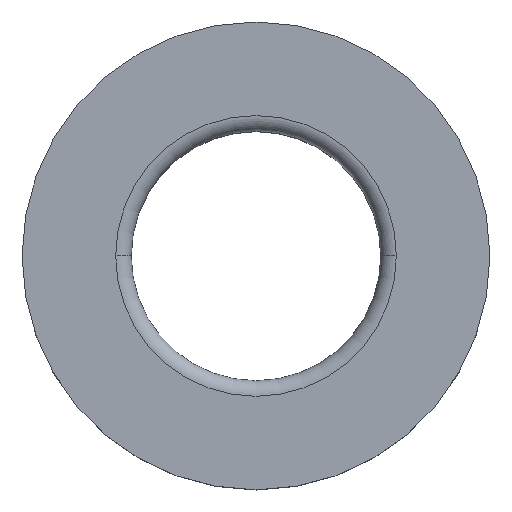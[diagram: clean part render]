
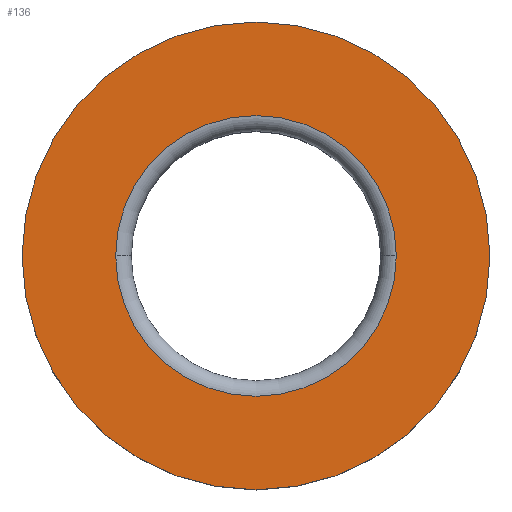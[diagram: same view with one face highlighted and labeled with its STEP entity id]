
A CAD part, top view. The second image highlights one B-rep face of the part: STEP entity #136.
In plain terms, the highlighted planar face has unit normal (0, 0, 1).
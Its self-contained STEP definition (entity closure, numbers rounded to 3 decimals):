
#136=ADVANCED_FACE('',(#147,#148),#143,.T.);
#143=PLANE('',#305);
#147=FACE_BOUND('',#159,.T.);
#148=FACE_BOUND('',#160,.T.);
#159=EDGE_LOOP('',(#195,#196));
#160=EDGE_LOOP('',(#197,#198));
#195=ORIENTED_EDGE('',*,*,#251,.F.);
#196=ORIENTED_EDGE('',*,*,#252,.F.);
#197=ORIENTED_EDGE('',*,*,#250,.T.);
#198=ORIENTED_EDGE('',*,*,#248,.T.);
#227=VERTEX_POINT('',#416);
#228=VERTEX_POINT('',#418);
#229=VERTEX_POINT('',#424);
#230=VERTEX_POINT('',#425);
#248=EDGE_CURVE('',#228,#227,#272,.T.);
#250=EDGE_CURVE('',#227,#228,#274,.T.);
#251=EDGE_CURVE('',#229,#230,#275,.T.);
#252=EDGE_CURVE('',#230,#229,#276,.T.);
#272=CIRCLE('',#298,4.5);
#274=CIRCLE('',#301,4.5);
#275=CIRCLE('',#303,7.5);
#276=CIRCLE('',#304,7.5);
#298=AXIS2_PLACEMENT_3D('',#417,#351,#352);
#301=AXIS2_PLACEMENT_3D('',#421,#357,#358);
#303=AXIS2_PLACEMENT_3D('',#423,#361,#362);
#304=AXIS2_PLACEMENT_3D('',#426,#363,#364);
#305=AXIS2_PLACEMENT_3D('',#427,#365,#366);
#351=DIRECTION('',(0.,0.,-1.));
#352=DIRECTION('',(0.,1.,0.));
#357=DIRECTION('',(0.,0.,-1.));
#358=DIRECTION('',(0.,-1.,0.));
#361=DIRECTION('',(0.,0.,-1.));
#362=DIRECTION('',(0.,1.,0.));
#363=DIRECTION('',(0.,0.,-1.));
#364=DIRECTION('',(0.,-1.,0.));
#365=DIRECTION('',(0.,0.,1.));
#366=DIRECTION('',(0.,-1.,0.));
#416=CARTESIAN_POINT('',(-4.5,0.,3.));
#417=CARTESIAN_POINT('',(0.,0.,3.));
#418=CARTESIAN_POINT('',(4.5,0.,3.));
#421=CARTESIAN_POINT('',(0.,0.,3.));
#423=CARTESIAN_POINT('',(0.,0.,3.));
#424=CARTESIAN_POINT('',(7.5,0.,3.));
#425=CARTESIAN_POINT('',(-7.5,0.,3.));
#426=CARTESIAN_POINT('',(0.,0.,3.));
#427=CARTESIAN_POINT('',(0.,0.,3.));
